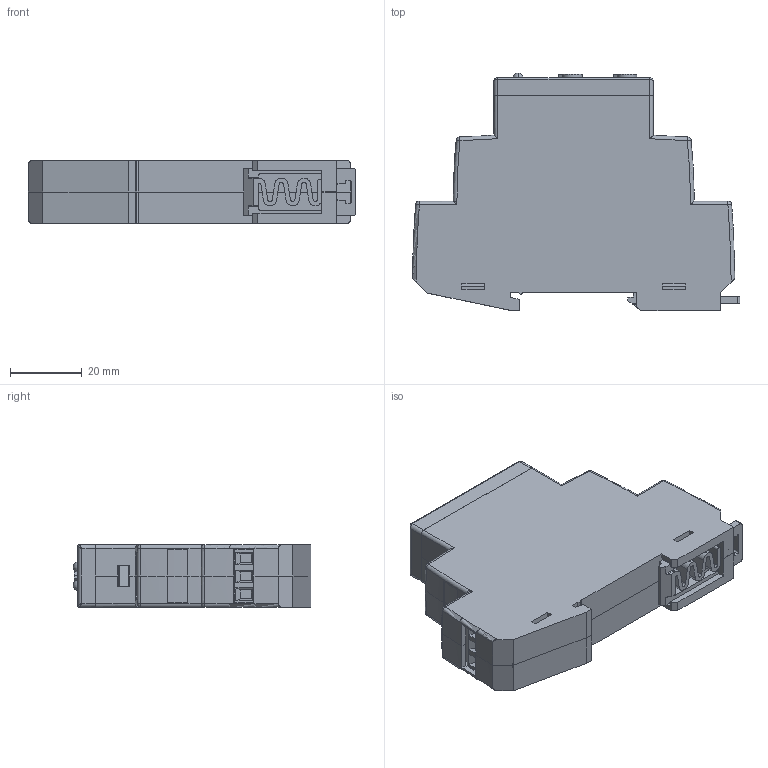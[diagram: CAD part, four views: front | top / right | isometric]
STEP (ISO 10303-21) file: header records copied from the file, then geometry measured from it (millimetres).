
FILE_DESCRIPTION(('FreeCAD Model'),'2;1');
FILE_NAME('Open CASCADE Shape Model','2023-08-11T08:35:31',(''),(''), 'Open CASCADE STEP processor 7.6','FreeCAD','Unknown');
FILE_SCHEMA(('AUTOMOTIVE_DESIGN { 1 0 10303 214 1 1 1 1 }'));
Length unit declared in the file: millimetre
Products named in the file (16): TE5_DPDT; Enclosure; side_Side Right, 3 Terminal (C); side_Side Left, 3 Terminal (C); din clip; Dial001; Dial003; Cover; LED; LED001; Terminals; Top Terminal; Terminal; Bottom Terminals; Terminal001; Terminal002
Assembly tree (15 placements, depth 4):
  TE5_DPDT
    Enclosure
      side_Side Right, 3 Terminal (C)
      side_Side Left, 3 Terminal (C)
      din clip
      Dial001
      Dial003
      Cover
    LED
      LED001
    Terminals
      Top Terminal
        Terminal
      Bottom Terminals
        Terminal001
        Terminal002
Bounding box: 91.28 x 66.31 x 17.5 mm (x, y, z)
Volume: 17052.8 mm3; surface area: 35034.4 mm2
Topology: 7 solids, 25 shells, 1989 faces, 14219 edges, 32766 vertices
Faces by surface type: plane 1205, bspline 310, cylinder 259, cone 114, torus 63, revolution 22, sphere 16
Full cylindrical faces by diameter (mm): 3.2 x2, 5.7 x2
Entity records: 283859 total; most frequent: CARTESIAN_POINT 112645, DIRECTION 23824, LINE 14673, VECTOR 14673, ORIENTED_EDGE 11199, PCURVE 11199, DEFINITIONAL_REPRESENTATION 11199, GEOMETRIC_CURVE_SET 5817
